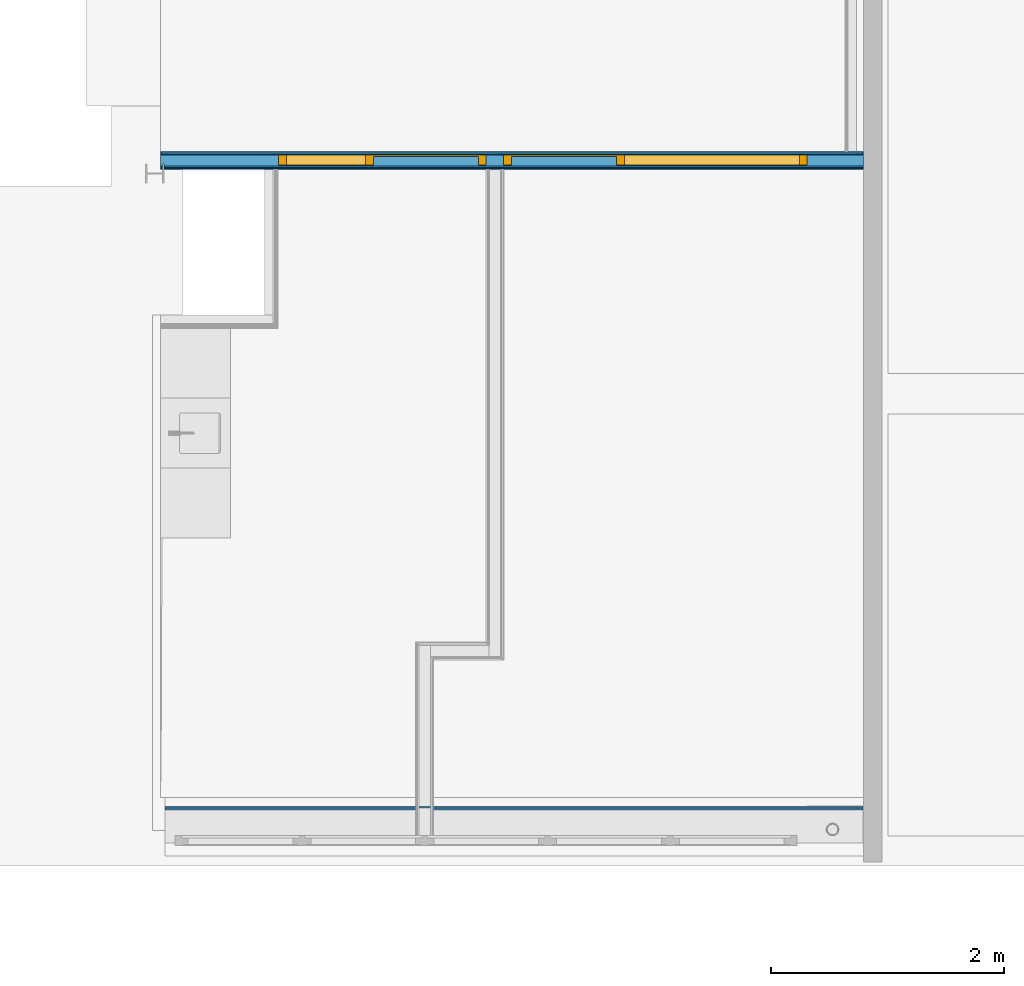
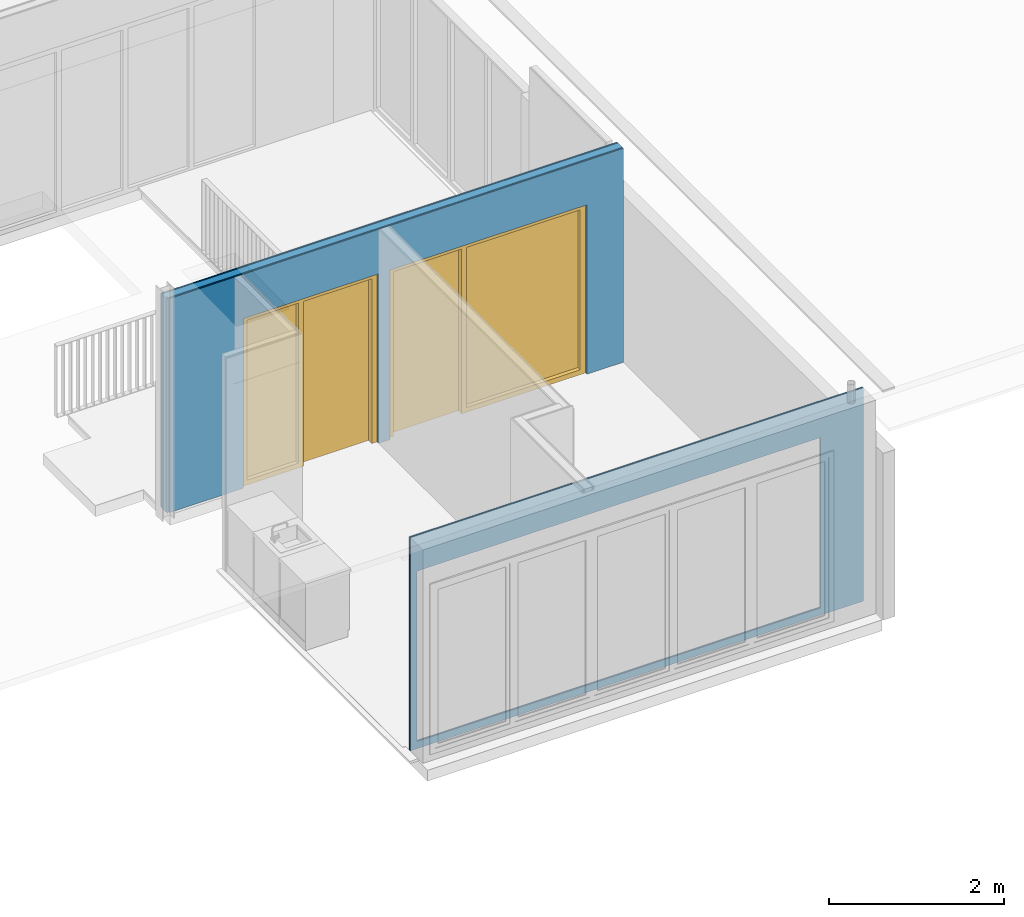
# One storey, part 18 of 25: 7 building element parts, 2 doors, 3 openings, 2 elements without a shape of their own.
"""IFC2X3 building model written with IfcOpenShell, lengths in millimetres."""

from ifc_helpers import new_model, entity, si_unit, converted_unit, derived_unit, money_unit, direction, frame, origin_with_axes, place, context, subcontext, project, spatial, open_shell, faceted_brep, surface_model, material, type_object, element, fill, aggregate, save


model = new_model("IFC2X3")

# Units and contexts
model_context = context("Model", 3, precision=0.01, world=origin_with_axes(), true_north=direction((0.0, 1.0)))
body_context = subcontext(model_context, "Body", "Model", "MODEL_VIEW")
ifc_project = project(units=[si_unit("LENGTHUNIT", "METRE", prefix="MILLI"), si_unit("AREAUNIT", "SQUARE_METRE"), si_unit("VOLUMEUNIT", "CUBIC_METRE"), converted_unit("PLANEANGLEUNIT", "DEGREE", entity("IfcPlaneAngleMeasure", 0.0174532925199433), si_unit("PLANEANGLEUNIT", "RADIAN"), dimensions=[0, 0, 0, 0, 0, 0, 0]), money_unit("EUR"), converted_unit("TIMEUNIT", "Year", entity("IfcTimeMeasure", 31557600.0), si_unit("TIMEUNIT", "SECOND"), dimensions=[0, 0, 1, 0, 0, 0, 0]), si_unit("MASSUNIT", "GRAM", prefix="KILO"), si_unit("THERMODYNAMICTEMPERATUREUNIT", "DEGREE_CELSIUS"), si_unit("LUMINOUSINTENSITYUNIT", "LUMEN"), si_unit("ENERGYUNIT", "JOULE", prefix="MEGA"), derived_unit("THERMALCONDUCTANCEUNIT", [(si_unit("POWERUNIT", "WATT"), 1), (si_unit("LENGTHUNIT", "METRE"), -1), (si_unit("THERMODYNAMICTEMPERATUREUNIT", "KELVIN"), -1)]), derived_unit("SPECIFICHEATCAPACITYUNIT", [(si_unit("ENERGYUNIT", "JOULE"), 1), (si_unit("MASSUNIT", "GRAM", prefix="KILO"), -1), (si_unit("THERMODYNAMICTEMPERATUREUNIT", "KELVIN"), -1)]), derived_unit("MASSDENSITYUNIT", [(si_unit("MASSUNIT", "GRAM", prefix="KILO"), 1), (si_unit("VOLUMEUNIT", "CUBIC_METRE"), -1)])], contexts=[model_context])

# Site, building, storey
site_placement = place(None, origin_with_axes())
site = spatial("IfcSite", under=ifc_project, at=site_placement, Name="<site naam>", CompositionType="ELEMENT")
building_placement = place(site_placement, origin_with_axes())
building = spatial("IfcBuilding", under=site, at=building_placement, Name="<Naam gebouw>", CompositionType="ELEMENT")
storey_placement = place(building_placement, frame((0.0, 0.0, 9563.0), z_axis=(0.0, 0.0, 1.0), x_axis=(1.0, 0.0, 0.0)))
storey = spatial("IfcBuildingStorey", under=building, at=storey_placement, Name="03 3e tussenverdieping", CompositionType="ELEMENT", Elevation=9563.0)

# Door
door_style_1 = type_object("IfcDoorStyle", Name="D1 zl1-b 27", ConstructionType="NOTDEFINED", OperationType="SINGLE_SWING_RIGHT", ParameterTakesPrecedence=False, Sizeable=False)
wall_1_placement = place(storey_placement, frame((58157.78284470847, 5935.000000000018, 0.0), z_axis=(0.0, 0.0, 1.0), x_axis=(-1.0, 0.0, 0.0)))
opening_2_placement = place(wall_1_placement, frame((4122.782844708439, 0.0, 0.0), z_axis=(0.0, 0.0, 1.0), x_axis=(1.0, 0.0, 0.0)))
door_1_placement = place(opening_2_placement, frame((890.0000000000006, 0.0, 0.0), z_axis=(0.0, 0.0, 1.0), x_axis=(-1.0, 0.0, 0.0)))
door_1 = element("IfcDoor", 1, at=door_1_placement, inside=storey, type_object=door_style_1, Name="22_BI-E-20_305", ObjectType="DOOR", OverallHeight=2367.0, OverallWidth=1780.0, context=body_context, shape_type="SurfaceModel", body=[
    faceted_brep([(0.0, 150.0000000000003, 0.0), (67.00000000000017, 150.0000000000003, 0.0), (67.00000000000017, 36.00000000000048, 0.0), (0.0, 36.00000000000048, 0.0), (0.0, 150.0000000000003, 2299.999999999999), (67.00000000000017, 150.0000000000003, 2299.999999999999), (67.00000000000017, 150.0000000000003, 67.00000000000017), (67.00000000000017, 36.00000000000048, 67.00000000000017), (67.00000000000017, 36.00000000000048, 2299.999999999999), (0.0, 36.00000000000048, 2299.999999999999)], [[[0, 1, 2, 3]], [[0, 4, 5, 6, 1]], [[1, 6, 7, 2]], [[3, 2, 7, 8, 9]], [[4, 0, 3, 9]], [[5, 4, 9, 8]], [[6, 5, 8, 7]]]),
    faceted_brep([(812.9999999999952, 110.0000000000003, 0.0), (812.9999999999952, 110.0000000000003, 2299.999999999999), (812.9999999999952, 36.00000000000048, 2299.999999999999), (812.9999999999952, 36.00000000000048, 0.0), (795.9999999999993, 110.0000000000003, 2299.999999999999), (795.9999999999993, 110.0000000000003, 0.0), (795.9999999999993, 150.0000000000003, 2299.999999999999), (745.9999999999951, 150.0000000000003, 2299.999999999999), (745.9999999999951, 36.00000000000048, 2299.999999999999), (745.9999999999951, 36.00000000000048, 0.0), (745.9999999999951, 36.00000000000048, 67.00000000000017), (745.9999999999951, 150.0000000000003, 0.0), (795.9999999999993, 150.0000000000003, 0.0), (745.9999999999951, 150.0000000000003, 67.00000000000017)], [[[0, 1, 2, 3]], [[4, 1, 0, 5]], [[4, 6, 7, 8, 2, 1]], [[9, 3, 2, 8, 10]], [[5, 0, 3, 9, 11, 12]], [[6, 4, 5, 12]], [[6, 12, 11, 13, 7]], [[13, 10, 8, 7]], [[11, 9, 10, 13]]]),
    faceted_brep([(67.00000000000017, 150.0000000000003, 67.00000000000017), (67.00000000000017, 150.0000000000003, 0.0), (67.00000000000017, 36.00000000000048, 0.0), (67.00000000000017, 36.00000000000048, 67.00000000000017), (745.9999999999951, 150.0000000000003, 67.00000000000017), (745.9999999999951, 150.0000000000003, 0.0), (745.9999999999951, 36.00000000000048, 0.0), (745.9999999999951, 36.00000000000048, 67.00000000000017)], [[[0, 1, 2, 3]], [[0, 4, 5, 1]], [[1, 5, 6, 2]], [[3, 2, 6, 7]], [[4, 0, 3, 7]], [[5, 4, 7, 6]]]),
    faceted_brep([(1729.999999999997, 110.0000000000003, 2299.999999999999), (1713.000000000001, 110.0000000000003, 2299.999999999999), (1713.000000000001, 35.99999999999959, 2299.999999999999), (1780.000000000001, 35.99999999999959, 2299.999999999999), (1780.000000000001, 150.0000000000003, 2299.999999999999), (1729.999999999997, 150.0000000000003, 2299.999999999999), (1729.999999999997, 110.0000000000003, 0.0), (1713.000000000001, 110.0000000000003, 0.0), (1713.000000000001, 36.00000000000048, 0.0), (1780.000000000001, 36.00000000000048, 0.0), (1780.000000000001, 150.0000000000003, 0.0), (1729.999999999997, 150.0000000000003, 0.0)], [[[0, 1, 2, 3, 4, 5]], [[1, 0, 6, 7]], [[1, 7, 8, 2]], [[3, 2, 8, 9]], [[4, 3, 9, 10]], [[11, 5, 4, 10]], [[0, 5, 11, 6]], [[6, 11, 10, 9, 8, 7]]]),
    faceted_brep([(795.9999999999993, 150.0000000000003, 2317.0), (795.9999999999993, 150.0000000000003, 2299.999999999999), (745.9999999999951, 150.0000000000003, 2299.999999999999), (67.00000000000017, 150.0000000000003, 2299.999999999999), (0.0, 150.0000000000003, 2299.999999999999), (0.0, 150.0000000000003, 2366.999999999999), (1780.000000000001, 150.0000000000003, 2366.999999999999), (1780.000000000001, 150.0000000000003, 2299.999999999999), (1729.999999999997, 150.0000000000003, 2299.999999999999), (1729.999999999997, 150.0000000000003, 2317.0), (795.9999999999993, 110.0000000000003, 2317.0), (795.9999999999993, 110.0000000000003, 2299.999999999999), (1713.000000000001, 110.0000000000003, 2299.999999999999), (1713.000000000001, 35.99999999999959, 2299.999999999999), (812.9999999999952, 36.00000000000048, 2299.999999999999), (745.9999999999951, 36.00000000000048, 2299.999999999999), (67.00000000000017, 36.00000000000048, 2299.999999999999), (0.0, 36.00000000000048, 2299.999999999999), (0.0, 36.00000000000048, 2366.999999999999), (1780.000000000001, 35.99999999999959, 2366.999999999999), (1780.000000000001, 35.99999999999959, 2299.999999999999), (1729.999999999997, 110.0000000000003, 2299.999999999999), (1729.999999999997, 110.0000000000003, 2317.0)], [[[0, 1, 2, 3, 4, 5, 6, 7, 8, 9]], [[1, 0, 10, 11]], [[11, 12, 13, 14, 15, 2, 1]], [[2, 15, 16, 3]], [[3, 16, 17, 4]], [[4, 17, 18, 5]], [[5, 18, 19, 6]], [[6, 19, 20, 7]], [[21, 8, 7, 20, 13, 12]], [[9, 8, 21, 22]], [[0, 9, 22, 10]], [[21, 12, 11, 10, 22]], [[13, 20, 19, 18, 17, 16, 15, 14]]]),
    faceted_brep([(1729.999999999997, 150.0000000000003, 0.0), (1729.999999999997, 110.0000000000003, 0.0), (795.9999999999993, 110.0000000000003, 0.0), (795.9999999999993, 150.0000000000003, 0.0), (1729.999999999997, 149.9999999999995, 2317.0), (1729.999999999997, 109.9999999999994, 2317.0), (795.9999999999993, 110.0000000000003, 2317.0), (795.9999999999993, 150.0000000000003, 2317.0)], [[[0, 1, 2, 3]], [[4, 5, 1, 0]], [[1, 5, 6, 2]], [[3, 2, 6, 7]], [[0, 3, 7, 4]], [[7, 6, 5, 4]]]),
    surface_model("IfcShellBasedSurfaceModel", [(67.00000000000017, 90.00000000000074, 67.00000000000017), (745.9999999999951, 90.00000000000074, 67.00000000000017), (745.9999999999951, 89.99999999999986, 2300.000000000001), (67.00000000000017, 90.00000000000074, 2300.000000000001)], [open_shell([[[0, 1, 2, 3]]])]),
    surface_model("IfcShellBasedSurfaceModel", [(67.00000000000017, 102.0000000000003, 67.00000000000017), (67.00000000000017, 102.0000000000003, 2300.000000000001), (745.9999999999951, 102.0000000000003, 2300.000000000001), (745.9999999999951, 102.0000000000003, 67.00000000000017)], [open_shell([[[0, 1, 2, 3]]])]),
])

door_style_2 = type_object("IfcDoorStyle", Name="D1 zl1-b 27", ConstructionType="NOTDEFINED", OperationType="SINGLE_SWING_LEFT", ParameterTakesPrecedence=False, Sizeable=False)
opening_1_placement = place(wall_1_placement, frame((1782.78284470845, 0.0, 0.0), z_axis=(0.0, 0.0, 1.0), x_axis=(1.0, 0.0, 0.0)))
door_2_placement = place(opening_1_placement, frame((450.0000000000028, 0.0, 0.0), z_axis=(0.0, 0.0, 1.0), x_axis=(-1.0, 0.0, 0.0)))
door_2 = element("IfcDoor", 2, at=door_2_placement, inside=storey, type_object=door_style_2, Name="22_BI-E-19_305", ObjectType="DOOR", OverallHeight=2367.0, OverallWidth=2600.0, context=body_context, shape_type="SurfaceModel", body=[
    faceted_brep([(1750.000000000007, 150.0000000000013, 0.0), (1750.000000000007, 36.00000000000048, 0.0), (1683.000000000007, 36.00000000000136, 0.0), (1683.000000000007, 150.0000000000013, 0.0), (1750.000000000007, 150.0000000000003, 2299.999999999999), (1750.000000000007, 36.00000000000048, 2299.999999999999), (1683.000000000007, 36.00000000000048, 2299.999999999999), (1683.000000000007, 36.00000000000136, 67.00000000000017), (1683.000000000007, 150.0000000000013, 67.00000000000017), (1683.000000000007, 150.0000000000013, 2299.999999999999)], [[[0, 1, 2, 3]], [[4, 5, 1, 0]], [[1, 5, 6, 7, 2]], [[3, 2, 7, 8]], [[0, 3, 8, 9, 4]], [[9, 6, 5, 4]], [[8, 7, 6, 9]]]),
    faceted_brep([(117.0000000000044, 110.0000000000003, 0.0), (117.0000000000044, 36.00000000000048, 0.0), (117.0000000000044, 36.00000000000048, 2299.999999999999), (117.0000000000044, 110.0000000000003, 2299.999999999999), (134.0000000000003, 110.0000000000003, 0.0), (134.0000000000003, 150.0000000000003, 0.0), (184.0000000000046, 150.0000000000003, 0.0), (184.0000000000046, 36.00000000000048, 0.0), (184.0000000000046, 36.00000000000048, 67.00000000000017), (184.0000000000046, 36.00000000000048, 2299.999999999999), (134.0000000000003, 110.0000000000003, 2299.999999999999), (184.0000000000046, 150.0000000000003, 2299.999999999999), (134.0000000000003, 150.0000000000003, 2299.999999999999), (184.0000000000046, 150.0000000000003, 67.00000000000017)], [[[0, 1, 2, 3]], [[4, 5, 6, 7, 1, 0]], [[7, 8, 9, 2, 1]], [[10, 3, 2, 9, 11, 12]], [[10, 4, 0, 3]], [[12, 5, 4, 10]], [[12, 11, 13, 6, 5]], [[6, 13, 8, 7]], [[13, 11, 9, 8]]]),
    faceted_brep([(1683.000000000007, 150.0000000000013, 67.00000000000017), (1683.000000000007, 36.00000000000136, 67.00000000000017), (1683.000000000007, 36.00000000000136, 0.0), (1683.000000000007, 150.0000000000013, 0.0), (184.0000000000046, 150.0000000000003, 67.00000000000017), (184.0000000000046, 36.00000000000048, 67.00000000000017), (184.0000000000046, 36.00000000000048, 0.0), (184.0000000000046, 150.0000000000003, 0.0)], [[[0, 1, 2, 3]], [[4, 5, 1, 0]], [[1, 5, 6, 2]], [[3, 2, 6, 7]], [[0, 3, 7, 4]], [[7, 6, 5, 4]]]),
    faceted_brep([(-799.9999999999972, 110.0000000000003, 2299.999999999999), (-799.9999999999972, 150.0000000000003, 2299.999999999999), (-850.0000000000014, 150.0000000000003, 2299.999999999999), (-850.0000000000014, 36.00000000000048, 2299.999999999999), (-783.0000000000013, 36.00000000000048, 2299.999999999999), (-783.0000000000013, 110.0000000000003, 2299.999999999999), (-799.9999999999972, 110.0000000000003, 0.0), (-799.9999999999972, 150.0000000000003, 0.0), (-850.0000000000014, 150.0000000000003, 0.0), (-850.0000000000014, 36.00000000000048, 0.0), (-783.0000000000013, 36.00000000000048, 0.0), (-783.0000000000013, 110.0000000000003, 0.0)], [[[0, 1, 2, 3, 4, 5]], [[0, 6, 7, 1]], [[7, 8, 2, 1]], [[2, 8, 9, 3]], [[3, 9, 10, 4]], [[5, 4, 10, 11]], [[5, 11, 6, 0]], [[6, 11, 10, 9, 8, 7]]]),
    faceted_brep([(134.0000000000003, 150.0000000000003, 2317.0), (-799.9999999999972, 150.0000000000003, 2317.0), (-799.9999999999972, 150.0000000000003, 2299.999999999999), (-850.0000000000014, 150.0000000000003, 2299.999999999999), (-850.0000000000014, 150.0000000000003, 2366.999999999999), (1750.000000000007, 150.0000000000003, 2366.999999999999), (1750.000000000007, 150.0000000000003, 2299.999999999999), (1683.000000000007, 150.0000000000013, 2299.999999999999), (184.0000000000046, 150.0000000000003, 2299.999999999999), (134.0000000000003, 150.0000000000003, 2299.999999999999), (134.0000000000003, 110.0000000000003, 2317.0), (-799.9999999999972, 110.0000000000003, 2317.0), (-799.9999999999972, 110.0000000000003, 2299.999999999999), (-783.0000000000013, 110.0000000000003, 2299.999999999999), (-783.0000000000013, 36.00000000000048, 2299.999999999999), (-850.0000000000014, 36.00000000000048, 2299.999999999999), (-850.0000000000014, 36.00000000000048, 2366.999999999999), (1750.000000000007, 36.00000000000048, 2366.999999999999), (1750.000000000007, 36.00000000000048, 2299.999999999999), (1683.000000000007, 36.00000000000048, 2299.999999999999), (184.0000000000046, 36.00000000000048, 2299.999999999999), (134.0000000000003, 110.0000000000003, 2299.999999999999), (117.0000000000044, 36.00000000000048, 2299.999999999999)], [[[0, 1, 2, 3, 4, 5, 6, 7, 8, 9]], [[0, 10, 11, 1]], [[1, 11, 12, 2]], [[12, 13, 14, 15, 3, 2]], [[4, 3, 15, 16]], [[5, 4, 16, 17]], [[6, 5, 17, 18]], [[7, 6, 18, 19]], [[8, 7, 19, 20]], [[21, 9, 8, 20, 22, 14, 13]], [[9, 21, 10, 0]], [[12, 11, 10, 21, 13]], [[14, 22, 20, 19, 18, 17, 16, 15]]]),
    faceted_brep([(-799.9999999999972, 150.0000000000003, 0.0), (134.0000000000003, 150.0000000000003, 0.0), (134.0000000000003, 110.0000000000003, 0.0), (-799.9999999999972, 110.0000000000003, 0.0), (-799.9999999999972, 150.0000000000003, 2317.0), (134.0000000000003, 150.0000000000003, 2317.0), (134.0000000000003, 110.0000000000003, 2317.0), (-799.9999999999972, 110.0000000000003, 2317.0)], [[[0, 1, 2, 3]], [[0, 4, 5, 1]], [[1, 5, 6, 2]], [[3, 2, 6, 7]], [[4, 0, 3, 7]], [[5, 4, 7, 6]]]),
    surface_model("IfcShellBasedSurfaceModel", [(1683.0, 90.00000000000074, 67.00000000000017), (1683.0, 90.00000000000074, 2300.000000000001), (184.0000000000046, 89.99999999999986, 2300.000000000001), (184.0000000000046, 90.00000000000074, 67.00000000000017)], [open_shell([[[0, 1, 2, 3]]])]),
    surface_model("IfcShellBasedSurfaceModel", [(1683.0, 102.0000000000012, 67.00000000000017), (184.0000000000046, 102.0000000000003, 67.00000000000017), (184.0000000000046, 102.0000000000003, 2300.000000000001), (1683.0, 102.0000000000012, 2300.000000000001)], [open_shell([[[0, 1, 2, 3]]])]),
])

# Wall, opening
wall_type_1 = type_object("IfcWallType", Name="MS-01 GF 150 ECO DGS/2.100.2.A 150", PredefinedType="NOTDEFINED")
wall_1 = element("IfcWall", 3, at=wall_1_placement, inside=storey, type_object=wall_type_1, Name="22_Binnenwand_MS-01")
opening_1 = element("IfcOpeningElement", 4, at=opening_1_placement, cuts=wall_1, Name="22_BI-E-19_305", context=body_context, shape_type="Brep", body=[
    faceted_brep([(1300.000000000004, 1.000000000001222, 2366.999999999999), (1300.000000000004, 1.000000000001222, 0.0), (-1300.000000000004, 1.000000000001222, 0.0), (-1300.000000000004, 1.000000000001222, 2366.999999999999), (1300.000000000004, -151.0000000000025, 2366.999999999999), (1300.000000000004, -151.0000000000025, 0.0), (-1300.000000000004, -151.0000000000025, 0.0), (-1300.000000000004, -151.0000000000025, 2366.999999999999)], [[[0, 1, 2, 3]], [[4, 5, 1, 0]], [[5, 6, 2, 1]], [[6, 7, 3, 2]], [[7, 4, 0, 3]], [[6, 5, 4, 7]]]),
])

fill(opening_1, door_2)

# Opening
opening_2 = element("IfcOpeningElement", 5, at=opening_2_placement, cuts=wall_1, Name="22_BI-E-20_305", context=body_context, shape_type="Brep", body=[
    faceted_brep([(890.0000000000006, 1.00000000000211, 2366.999999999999), (890.0000000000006, 1.000000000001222, 0.0), (-890.0000000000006, 1.00000000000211, 0.0), (-890.0000000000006, 1.00000000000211, 2366.999999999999), (890.0000000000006, -151.0000000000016, 2366.999999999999), (890.0000000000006, -151.0000000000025, 0.0), (-890.0000000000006, -151.0000000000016, 0.0), (-890.0000000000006, -151.0000000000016, 2366.999999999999)], [[[0, 1, 2, 3]], [[4, 5, 1, 0]], [[5, 6, 2, 1]], [[6, 7, 3, 2]], [[7, 4, 0, 3]], [[6, 5, 4, 7]]]),
])

fill(opening_2, door_1)

# Building element part
ifc_material_1 = material(Name="gipsplaat")
building_element_part_1_placement = place(wall_1_placement, origin_with_axes())
building_element_part_1 = element("IfcBuildingElementPart", 6, at=building_element_part_1_placement, material=ifc_material_1, Name="gipsplaat", context=body_context, shape_type="Brep", body=[
    faceted_brep([(6022.782844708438, -12.49999999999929, 2987.000014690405), (6005.783376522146, -12.49999999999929, 2987.000014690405), (6005.783376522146, -12.49999999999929, 0.0), (6022.782844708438, -12.49999999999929, 0.0), (6005.783376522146, 0.0, 2987.000014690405), (6022.782844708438, 0.0, 2987.000014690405), (6005.783376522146, 0.0, 0.0), (6022.782844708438, 0.0, 0.0)], [[[0, 1, 2, 3]], [[4, 1, 0, 5]], [[1, 4, 6, 2]], [[3, 2, 6, 7]], [[5, 0, 3, 7]], [[4, 5, 7, 6]]]),
    faceted_brep([(5992.782807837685, -12.49999999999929, 2987.000014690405), (-3.008793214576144e-07, -12.50000000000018, 2987.000014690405), (-2.274617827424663e-05, -12.50000000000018, 3.000000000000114), (3082.782844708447, -12.49999999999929, 3.000000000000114), (3082.782844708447, -12.49999999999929, 0.0), (3232.782908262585, -12.49999999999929, 0.0), (3232.782908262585, -12.49999999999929, 3.000000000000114), (5020.282844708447, -12.49999999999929, 3.000000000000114), (5020.282844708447, -12.49999999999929, 0.0), (5992.782807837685, -12.49999999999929, 0.0), (-3.008793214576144e-07, 0.0, 2987.000014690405), (5992.782807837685, 0.0, 2987.000014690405), (-2.274617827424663e-05, 0.0, 3.000000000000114), (3082.782844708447, 0.0, 3.000000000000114), (3082.782844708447, 0.0, 0.0), (3232.782908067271, 0.0, 0.0), (3232.782908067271, 0.0, 3.000000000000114), (5020.282844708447, 0.0, 3.000000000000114), (5020.282844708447, 0.0, 0.0), (5992.782807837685, 0.0, 0.0)], [[[0, 1, 2, 3, 4, 5, 6, 7, 8, 9]], [[10, 1, 0, 11]], [[1, 10, 12, 2]], [[12, 13, 3, 2]], [[13, 14, 4, 3]], [[4, 14, 15, 5]], [[15, 16, 6, 5]], [[16, 17, 7, 6]], [[17, 18, 8, 7]], [[18, 19, 9, 8]], [[11, 0, 9, 19]], [[10, 11, 19, 18, 17, 16, 15, 14, 13, 12]]]),
])

building_element_part_2_placement = place(wall_1_placement, origin_with_axes())
building_element_part_2 = element("IfcBuildingElementPart", 7, at=building_element_part_2_placement, material=ifc_material_1, Name="gipsplaat", context=body_context, shape_type="Brep", body=[
    faceted_brep([(6022.782844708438, -137.4999999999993, 2987.000014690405), (-3.008793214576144e-07, -137.5000000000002, 2987.000014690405), (-2.274617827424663e-05, -137.5000000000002, 3.000000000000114), (3082.782844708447, -137.4999999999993, 3.000000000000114), (3082.782844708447, -137.4999999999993, 0.0), (3232.78291021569, -137.4999999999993, 0.0), (3232.78291021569, -137.4999999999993, 3.000000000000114), (5020.282844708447, -137.4999999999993, 3.000000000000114), (5020.282844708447, -137.4999999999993, 0.0), (6022.782844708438, -137.4999999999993, 0.0), (-3.008793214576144e-07, -125.0, 2987.000014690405), (6022.782844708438, -124.9999999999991, 2987.000014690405), (-2.274617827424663e-05, -125.0, 3.000000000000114), (3082.782844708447, -124.9999999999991, 3.000000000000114), (3082.782844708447, -124.9999999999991, 0.0), (3232.782910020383, -124.9999999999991, 0.0), (3232.782910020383, -124.9999999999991, 3.000000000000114), (5020.282844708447, -124.9999999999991, 3.000000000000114), (5020.282844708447, -124.9999999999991, 0.0), (6022.782844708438, -124.9999999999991, 0.0)], [[[0, 1, 2, 3, 4, 5, 6, 7, 8, 9]], [[10, 1, 0, 11]], [[1, 10, 12, 2]], [[13, 3, 2, 12]], [[14, 4, 3, 13]], [[14, 15, 5, 4]], [[16, 6, 5, 15]], [[17, 7, 6, 16]], [[18, 8, 7, 17]], [[9, 8, 18, 19]], [[11, 0, 9, 19]], [[10, 11, 19, 18, 17, 16, 15, 14, 13, 12]]]),
])

building_element_part_3_placement = place(wall_1_placement, origin_with_axes())
building_element_part_3 = element("IfcBuildingElementPart", 8, at=building_element_part_3_placement, material=ifc_material_1, Name="gipsplaat", context=body_context, shape_type="Brep", body=[
    faceted_brep([(6022.782844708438, -24.99999999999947, 2987.000014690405), (6005.783376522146, -24.99999999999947, 2987.000014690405), (6005.783376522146, -24.99999999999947, 0.0), (6022.782844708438, -24.99999999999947, 0.0), (6005.783376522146, -12.49999999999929, 2987.000014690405), (6022.782844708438, -12.49999999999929, 2987.000014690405), (6005.783376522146, -12.49999999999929, 0.0), (6022.782844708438, -12.49999999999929, 0.0)], [[[0, 1, 2, 3]], [[4, 1, 0, 5]], [[1, 4, 6, 2]], [[3, 2, 6, 7]], [[5, 0, 3, 7]], [[4, 5, 7, 6]]]),
    faceted_brep([(5992.782807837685, -24.99999999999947, 2987.000014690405), (-3.008793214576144e-07, -24.99999999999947, 2987.000014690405), (-2.274617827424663e-05, -25.00000000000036, 3.000000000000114), (3082.782844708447, -24.99999999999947, 3.000000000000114), (3082.782844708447, -24.99999999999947, 0.0), (3232.782908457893, -24.99999999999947, 0.0), (3232.782908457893, -24.99999999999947, 3.000000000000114), (5020.282844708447, -24.99999999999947, 3.000000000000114), (5020.282844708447, -24.99999999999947, 0.0), (5992.782807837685, -24.99999999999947, 0.0), (-3.008793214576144e-07, -12.50000000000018, 2987.000014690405), (5992.782807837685, -12.49999999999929, 2987.000014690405), (-2.274617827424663e-05, -12.50000000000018, 3.000000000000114), (3082.782844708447, -12.49999999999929, 3.000000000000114), (3082.782844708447, -12.49999999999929, 0.0), (3232.782908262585, -12.49999999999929, 0.0), (3232.782908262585, -12.49999999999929, 3.000000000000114), (5020.282844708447, -12.49999999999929, 3.000000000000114), (5020.282844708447, -12.49999999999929, 0.0), (5992.782807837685, -12.49999999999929, 0.0)], [[[0, 1, 2, 3, 4, 5, 6, 7, 8, 9]], [[10, 1, 0, 11]], [[1, 10, 12, 2]], [[12, 13, 3, 2]], [[13, 14, 4, 3]], [[4, 14, 15, 5]], [[15, 16, 6, 5]], [[16, 17, 7, 6]], [[17, 18, 8, 7]], [[18, 19, 9, 8]], [[11, 0, 9, 19]], [[10, 11, 19, 18, 17, 16, 15, 14, 13, 12]]]),
])

ifc_material_2 = material(Name="isolatie_steenwol LSW")
building_element_part_4_placement = place(wall_1_placement, origin_with_axes())
building_element_part_4 = element("IfcBuildingElementPart", 9, at=building_element_part_4_placement, material=ifc_material_2, Name="isolatie_steenwol LSW", context=body_context, shape_type="Brep", body=[
    faceted_brep([(6022.782844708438, -124.9999999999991, 2987.000014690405), (-3.008793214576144e-07, -125.0, 2987.000014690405), (-2.274617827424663e-05, -124.9999999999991, 3.000000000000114), (3082.782844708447, -124.9999999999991, 3.000000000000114), (3082.782844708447, -124.9999999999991, 0.0), (3232.782910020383, -124.9999999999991, 0.0), (3232.782910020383, -124.9999999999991, 3.000000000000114), (5020.282844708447, -124.9999999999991, 3.000000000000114), (5020.282844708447, -124.9999999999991, 0.0), (6022.782844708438, -124.9999999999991, 0.0), (-3.008793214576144e-07, -24.99999999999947, 2987.000014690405), (6022.782844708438, -24.99999999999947, 2987.000014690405), (6005.783376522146, -24.99999999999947, 2987.000014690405), (6005.783376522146, -43.00011943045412, 2987.000014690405), (5992.782807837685, -43.00013514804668, 2987.000014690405), (5992.782807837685, -24.99999999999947, 2987.000014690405), (-2.274617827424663e-05, -25.00000000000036, 3.000000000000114), (3082.782844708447, -24.99999999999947, 3.000000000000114), (3082.782844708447, -24.99999999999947, 0.0), (3232.782908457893, -24.99999999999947, 0.0), (3232.782908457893, -24.99999999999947, 3.000000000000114), (5020.282844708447, -24.99999999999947, 3.000000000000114), (5020.282844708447, -24.99999999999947, 0.0), (5992.782807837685, -43.00013514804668, 0.0), (6005.783376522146, -43.00011943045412, 0.0), (6005.783376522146, -24.99999999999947, 0.0), (6022.782844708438, -24.99999999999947, 0.0), (5992.782807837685, -24.99999999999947, 0.0)], [[[0, 1, 2, 3, 4, 5, 6, 7, 8, 9]], [[10, 1, 0, 11, 12, 13, 14, 15]], [[1, 10, 16, 2]], [[16, 17, 3, 2]], [[17, 18, 4, 3]], [[4, 18, 19, 5]], [[19, 20, 6, 5]], [[20, 21, 7, 6]], [[21, 22, 8, 7]], [[23, 24, 25, 26, 9, 8, 22, 27]], [[11, 0, 9, 26]], [[12, 11, 26, 25]], [[13, 12, 25, 24]], [[14, 13, 24, 23]], [[15, 14, 23, 27]], [[10, 15, 27, 22, 21, 20, 19, 18, 17, 16]]]),
])

building_element_part_5_placement = place(wall_1_placement, origin_with_axes())
building_element_part_5 = element("IfcBuildingElementPart", 10, at=building_element_part_5_placement, material=ifc_material_1, Name="gipsplaat", context=body_context, shape_type="Brep", body=[
    faceted_brep([(6022.782844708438, -149.9999999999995, 2987.000014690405), (-3.008793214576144e-07, -149.9999999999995, 2987.000014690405), (-2.274617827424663e-05, -150.0000000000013, 3.000000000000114), (3082.782844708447, -150.0000000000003, 3.000000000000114), (3082.782844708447, -150.0000000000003, 0.0), (3232.782910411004, -150.0000000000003, 0.0), (3232.782910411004, -150.0000000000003, 3.000000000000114), (5020.282844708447, -150.0000000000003, 3.000000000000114), (5020.282844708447, -150.0000000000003, 0.0), (6022.782844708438, -149.9999999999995, 0.0), (-3.008793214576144e-07, -137.5000000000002, 2987.000014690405), (6022.782844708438, -137.4999999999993, 2987.000014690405), (-2.274617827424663e-05, -137.5000000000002, 3.000000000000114), (3082.782844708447, -137.4999999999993, 3.000000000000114), (3082.782844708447, -137.4999999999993, 0.0), (3232.78291021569, -137.4999999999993, 0.0), (3232.78291021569, -137.4999999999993, 3.000000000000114), (5020.282844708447, -137.4999999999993, 3.000000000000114), (5020.282844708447, -137.4999999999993, 0.0), (6022.782844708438, -137.4999999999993, 0.0)], [[[0, 1, 2, 3, 4, 5, 6, 7, 8, 9]], [[10, 1, 0, 11]], [[1, 10, 12, 2]], [[13, 3, 2, 12]], [[14, 4, 3, 13]], [[14, 15, 5, 4]], [[16, 6, 5, 15]], [[17, 7, 6, 16]], [[18, 8, 7, 17]], [[9, 8, 18, 19]], [[11, 0, 9, 19]], [[10, 11, 19, 18, 17, 16, 15, 14, 13, 12]]]),
])

aggregate(wall_1, [building_element_part_1, building_element_part_2, building_element_part_3, building_element_part_4, building_element_part_5])

# Wall, opening, building element parts
wall_type_2 = type_object("IfcWallType", Name="HSB_285 zonder gevelbeplating 313", PredefinedType="NOTDEFINED")
wall_2_placement = place(storey_placement, frame((52175.00000000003, 159.999858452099, 0.0), z_axis=(0.0, 0.0, 1.0), x_axis=(1.0, 0.0, 0.0)))
wall_2 = element("IfcWall", 11, at=wall_2_placement, inside=storey, type_object=wall_type_2, Name="21_Binnenwand_HSB_285")
opening_3_placement = place(wall_2_placement, frame((2749.937334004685, 0.0, 102.4999999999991), z_axis=(0.0, 0.0, 1.0), x_axis=(1.0, 0.0, 0.0)))
element("IfcOpeningElement", 12, at=opening_3_placement, cuts=wall_2, Name="21_BU-B-32_305", context=body_context, shape_type="Brep", body=[
    faceted_brep([(2664.461586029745, 313.5000000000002, 2377.0), (2664.461586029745, 313.5, 0.0), (-2664.461586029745, 313.5, 0.0), (-2664.461586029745, 313.5000000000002, 2377.0), (2664.461586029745, -1.000000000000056, 2377.0), (2664.461586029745, -1.000000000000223, 0.0), (-2664.461586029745, -1.000000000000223, 0.0), (-2664.461586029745, -1.000000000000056, 2377.0)], [[[0, 1, 2, 3]], [[4, 5, 1, 0]], [[5, 6, 2, 1]], [[6, 7, 3, 2]], [[7, 4, 0, 3]], [[6, 5, 4, 7]]]),
])
ifc_material_3 = material(Name="hout_OSB")
building_element_part_6_placement = place(wall_2_placement, origin_with_axes())
building_element_part_6 = element("IfcBuildingElementPart", 13, at=building_element_part_6_placement, material=ifc_material_3, Name="hout_OSB", context=body_context, shape_type="Brep", body=[
    faceted_brep([(2148.644960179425, 300.0000000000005, 3.000000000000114), (4.88057025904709e-05, 300.0, 3.000000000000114), (0.0, 300.0, 2977.0), (5980.000000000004, 300.0000000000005, 2977.0), (5980.000000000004, 300.0000000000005, 0.0), (5500.000007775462, 300.0000000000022, 0.0), (5500.000007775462, 300.0000000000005, 3.000000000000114), (2298.64501679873, 300.0000000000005, 3.000000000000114), (2298.64501679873, 300.0, 0.0), (2148.644960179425, 299.9999999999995, 0.0), (2148.644959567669, 285.0000000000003, 3.000000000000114), (4.88057025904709e-05, 284.9999999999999, 3.000000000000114), (0.0, 285.0000000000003, 2977.0), (5980.000000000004, 285.0000000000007, 2977.0), (5980.000000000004, 285.0000000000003, 0.0), (5500.000007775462, 285.0000000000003, 0.0), (5500.000007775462, 285.0000000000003, 3.000000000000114), (2298.64501679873, 285.0000000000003, 3.000000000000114), (2298.64501679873, 284.9999999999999, 0.0), (2148.644959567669, 285.0000000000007, 0.0)], [[[0, 1, 2, 3, 4, 5, 6, 7, 8, 9]], [[1, 0, 10, 11]], [[1, 11, 12, 2]], [[12, 13, 3, 2]], [[14, 4, 3, 13]], [[15, 5, 4, 14]], [[6, 5, 15, 16]], [[7, 6, 16, 17]], [[8, 7, 17, 18]], [[19, 9, 8, 18]], [[0, 9, 19, 10]], [[10, 19, 18, 17, 16, 15, 14, 13, 12, 11]]]),
])
building_element_part_7_placement = place(wall_2_placement, origin_with_axes())
building_element_part_7 = element("IfcBuildingElementPart", 14, at=building_element_part_7_placement, material=ifc_material_1, Name="gipsplaat", context=body_context, shape_type="Brep", body=[
    faceted_brep([(2148.644960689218, 312.5000000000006, 3.000000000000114), (4.88057025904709e-05, 312.5000000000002, 3.000000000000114), (0.0, 312.5000000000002, 2977.0), (5980.000000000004, 312.5000000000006, 2977.0), (5980.000000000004, 312.5000000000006, 0.0), (5500.000007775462, 312.5000000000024, 0.0), (5500.000007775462, 312.5000000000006, 3.000000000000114), (2298.64501679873, 312.5000000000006, 3.000000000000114), (2298.64501679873, 312.5000000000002, 0.0), (2148.644960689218, 312.4999999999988, 0.0), (2148.644960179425, 300.0000000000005, 3.000000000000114), (4.88057025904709e-05, 300.0, 3.000000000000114), (0.0, 300.0, 2977.0), (5980.000000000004, 300.0000000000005, 2977.0), (5980.000000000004, 300.0000000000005, 0.0), (5500.000007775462, 300.0000000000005, 0.0), (5500.000007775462, 300.0000000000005, 3.000000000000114), (2298.64501679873, 300.0000000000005, 3.000000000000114), (2298.64501679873, 300.0, 0.0), (2148.644960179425, 300.0000000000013, 0.0)], [[[0, 1, 2, 3, 4, 5, 6, 7, 8, 9]], [[1, 0, 10, 11]], [[1, 11, 12, 2]], [[12, 13, 3, 2]], [[14, 4, 3, 13]], [[15, 5, 4, 14]], [[6, 5, 15, 16]], [[7, 6, 16, 17]], [[8, 7, 17, 18]], [[19, 9, 8, 18]], [[0, 9, 19, 10]], [[10, 19, 18, 17, 16, 15, 14, 13, 12, 11]]]),
])
aggregate(wall_2, [building_element_part_6, building_element_part_7])

save(model, "model.ifc")
